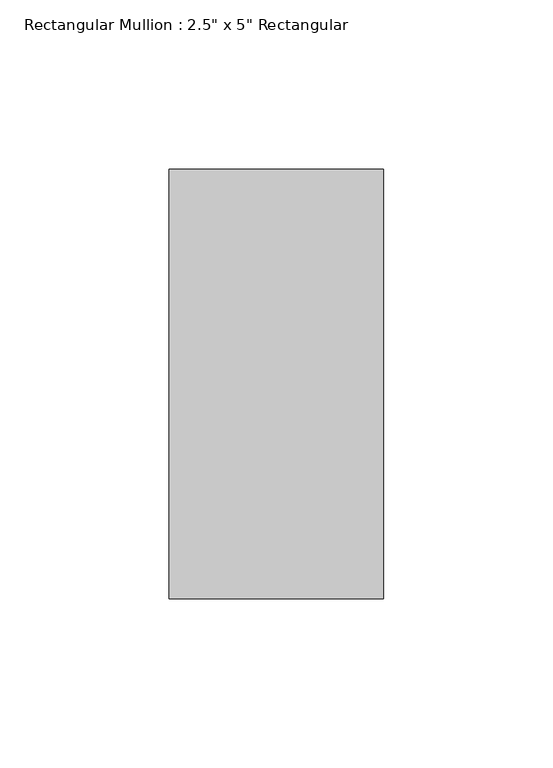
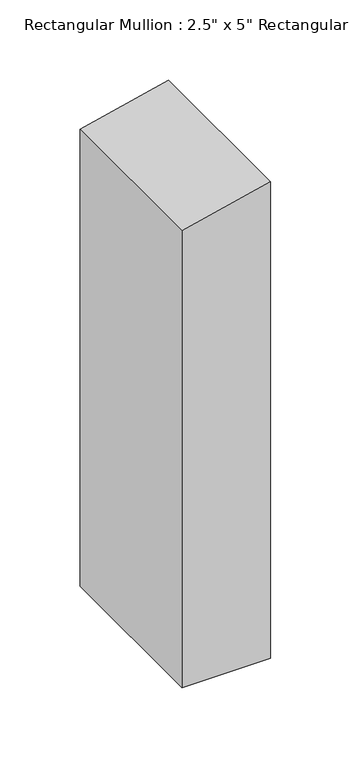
"""IFC4 building model written with IfcOpenShell, lengths in millimetres: member geometry."""

import ifcopenshell
import ifcopenshell.guid

model = None  # the IFC model being written
_history = None  # IfcOwnerHistory: only IFC2X3 demands one
_inside = {}  # id of a spatial element -> (the spatial element, [elements in it])
_under = {}  # id of a project, library or spatial element -> (it, [spatial elements below it])
_declared = {}  # id of a project -> (the project, [libraries it declares])
_typed = {}  # id of a type object -> (the type object, [elements of that type])
_made_of = {}  # id of a material, layer set ... -> (it, [elements and type objects made of it])


def new_model(schema):
    """Start an empty IFC model of exactly this schema.

    Asked for "IFC4X3", IfcOpenShell would pick the latest addendum, in which some entities
    have other attributes; the version numbers below select the first issue.
    IFC2X3 requires an IfcOwnerHistory on every rooted entity: one is made here for all.
    """
    global model, _history
    if schema == "IFC4X3":
        model = ifcopenshell.file(schema_version=(4, 3, 0, 0))
    else:
        model = ifcopenshell.file(schema=schema)
    _inside.clear()
    _under.clear()
    _declared.clear()
    _typed.clear()
    _made_of.clear()
    _history = None
    if model.schema == "IFC2X3":
        org = make("IfcOrganization", Name="unknown")
        user = make(
            "IfcPersonAndOrganization",
            ThePerson=make("IfcPerson", FamilyName="unknown"),
            TheOrganization=org,
        )
        app = make(
            "IfcApplication",
            ApplicationDeveloper=org,
            Version="unknown",
            ApplicationFullName="unknown",
            ApplicationIdentifier="unknown",
        )
        _history = make(
            "IfcOwnerHistory",
            OwningUser=user,
            OwningApplication=app,
            ChangeAction="ADDED",
            CreationDate=0,
        )
    return model


def make(cls, **values):
    """One entity of the class cls with the attributes given. An attribute that is None is left unset."""
    return model.create_entity(
        cls, **{name: value for name, value in values.items() if value is not None}
    )


def rooted(cls, **values):
    """An entity with a GlobalId (a new one), such as an element, a storey or a relation."""
    return make(cls, GlobalId=ifcopenshell.guid.new(), OwnerHistory=_history, **values)


def si_unit(unit_type, name, prefix=None):
    """IfcSIUnit, for example si_unit("LENGTHUNIT", "METRE", prefix="MILLI")."""
    return make("IfcSIUnit", UnitType=unit_type, Prefix=prefix, Name=name)


def assignment(units):
    """IfcUnitAssignment: the units of a project."""
    return None if units is None else make("IfcUnitAssignment", Units=units)


def point(xyz):
    """IfcCartesianPoint."""
    return None if xyz is None else make("IfcCartesianPoint", Coordinates=xyz)


def direction(xyz):
    """IfcDirection."""
    return None if xyz is None else make("IfcDirection", DirectionRatios=xyz)


def frame(location, z_axis=None, x_axis=None):
    """IfcAxis2Placement3D, a coordinate frame: its origin and axes. An axis left out is left unset."""
    return make(
        "IfcAxis2Placement3D",
        Location=point(location),
        Axis=direction(z_axis),
        RefDirection=direction(x_axis),
    )


def origin():
    """The frame at (0, 0, 0) with its axes left unset."""
    return frame((0.0, 0.0, 0.0))


def place(relative_to, where):
    """IfcLocalPlacement: puts the frame where relative to a parent placement (None: the world)."""
    return make(
        "IfcLocalPlacement", PlacementRelTo=relative_to, RelativePlacement=where
    )


def context(
    kind, dimensions, precision=None, world=None, true_north=None, identifier=None
):
    """IfcGeometricRepresentationContext, for example the 3D "Model" context."""
    return make(
        "IfcGeometricRepresentationContext",
        ContextIdentifier=identifier,
        ContextType=kind,
        CoordinateSpaceDimension=dimensions,
        Precision=precision,
        WorldCoordinateSystem=world,
        TrueNorth=true_north,
    )


def project(units=None, contexts=None):
    """IfcProject with its units and contexts."""
    return rooted(
        "IfcProject",
        Name="project",
        RepresentationContexts=contexts,
        UnitsInContext=assignment(units),
    )


def spatial(cls, under=None, at=None, **own):
    """A site, building, storey or space (cls), placed at a placement, below another one or the project."""
    s = rooted(cls, ObjectPlacement=at, **own)
    if under is not None:
        _under.setdefault(under.id(), (under, []))[1].append(s)
    return s


def polyline(points):
    """IfcPolyline through the points."""
    return make("IfcPolyline", Points=[point(p) for p in points])


def outline(outer, holes=None, kind="AREA"):
    """IfcArbitraryClosedProfileDef: a profile drawn as a closed curve; with holes, ...WithVoids."""
    if holes is None:
        return make("IfcArbitraryClosedProfileDef", ProfileType=kind, OuterCurve=outer)
    return make(
        "IfcArbitraryProfileDefWithVoids",
        ProfileType=kind,
        OuterCurve=outer,
        InnerCurves=holes,
    )


def extrude(swept, where, along, depth):
    """IfcExtrudedAreaSolid: the profile swept, set in the frame where, extruded along a direction by depth."""
    return make(
        "IfcExtrudedAreaSolid",
        SweptArea=swept,
        Position=where,
        ExtrudedDirection=direction(along),
        Depth=depth,
    )


def shape(context_of_items, identifier, shape_type, items):
    """IfcShapeRepresentation: the items that make up one representation, for example the "Body"."""
    return make(
        "IfcShapeRepresentation",
        ContextOfItems=context_of_items,
        RepresentationIdentifier=identifier,
        RepresentationType=shape_type,
        Items=items,
    )


def source(mapping_origin, context_of_items, identifier, shape_type, items):
    """IfcRepresentationMap: a shape defined once, which mapped items show again and again."""
    return make(
        "IfcRepresentationMap",
        MappingOrigin=mapping_origin,
        MappedRepresentation=shape(context_of_items, identifier, shape_type, items),
    )


def transform(
    local_origin,
    x_axis=None,
    y_axis=None,
    z_axis=None,
    scale=None,
    scale2=None,
    scale3=None,
    uniform=True,
):
    """IfcCartesianTransformationOperator3D, or its non-uniform kind. x_axis, y_axis, z_axis: its Axis1, 2, 3."""
    if uniform:
        return make(
            "IfcCartesianTransformationOperator3D",
            Axis1=direction(x_axis),
            Axis2=direction(y_axis),
            LocalOrigin=point(local_origin),
            Scale=scale,
            Axis3=direction(z_axis),
        )
    return make(
        "IfcCartesianTransformationOperator3DnonUniform",
        Axis1=direction(x_axis),
        Axis2=direction(y_axis),
        LocalOrigin=point(local_origin),
        Scale=scale,
        Axis3=direction(z_axis),
        Scale2=scale2,
        Scale3=scale3,
    )


def mapped(mapping_source, mapping_target):
    """IfcMappedItem: shows the shape of a source again, moved by a transform."""
    return make(
        "IfcMappedItem", MappingSource=mapping_source, MappingTarget=mapping_target
    )


def made_of(thing, what):
    """Note that an element or type object is made of a material, layer set ...; save() writes the relation."""
    if what is not None:
        _made_of.setdefault(what.id(), (what, []))[1].append(thing)
    return thing


def element(
    cls,
    number,
    at=None,
    inside=None,
    cuts=None,
    type_object=None,
    material=None,
    context=None,
    identifier="Body",
    shape_type=None,
    held_by="IfcProductDefinitionShape",
    body=None,
    shapes=None,
    **own,
):
    """One element of the class cls, such as IfcWall. Its Tag is "e" and its number.

    at: its placement. inside: the storey or other place that contains it. cuts: it is an
    opening in that element (IfcRelVoidsElement). A single representation is given by context,
    identifier, shape_type and body (its items); several are given by shapes. held_by: the class
    of the entity that holds the representations. save() writes the other relations.
    """
    e = rooted(cls, Tag="e%d" % number, ObjectPlacement=at, **own)
    if body is not None:
        shapes = [shape(context, identifier, shape_type, body)]
    if shapes is not None:
        e.Representation = make(held_by, Representations=shapes)
    if inside is not None:
        _inside.setdefault(inside.id(), (inside, []))[1].append(e)
    if cuts is not None:
        rooted(
            "IfcRelVoidsElement", RelatingBuildingElement=cuts, RelatedOpeningElement=e
        )
    if type_object is not None:
        _typed.setdefault(type_object.id(), (type_object, []))[1].append(e)
    return made_of(e, material)


def aggregate(whole, parts):
    """IfcRelAggregates: a whole, such as a stair, and the parts it consists of."""
    return rooted("IfcRelAggregates", RelatingObject=whole, RelatedObjects=parts)


def save(model, path):
    """Write the relations noted so far, then the file.

    IfcRelAggregates (storeys below a building ...), IfcRelContainedInSpatialStructure (elements
    in a storey), IfcRelDefinesByType, IfcRelAssociatesMaterial and IfcRelDeclares: one each for
    every whole, place, type object, material and project.
    """
    for whole, parts in _under.values():
        aggregate(whole, parts)
    for where, things in _inside.values():
        rooted(
            "IfcRelContainedInSpatialStructure",
            RelatedElements=things,
            RelatingStructure=where,
        )
    for kind, things in _typed.values():
        rooted("IfcRelDefinesByType", RelatedObjects=things, RelatingType=kind)
    for what, things in _made_of.values():
        rooted("IfcRelAssociatesMaterial", RelatedObjects=things, RelatingMaterial=what)
    for by, libraries in _declared.values():
        rooted("IfcRelDeclares", RelatingContext=by, RelatedDefinitions=libraries)
    model.write(path)


def member_281dec21(model_context):
    return source(origin(), model_context, "Body", "SweptSolid", [
        extrude(outline(polyline([(0.0, 0.0), (-14.9903166, -63.5), (-362.0288827, -63.5), (-362.0288827, 0.0), (0.0, 0.0)])), frame((0.0, -63.5, 0.0), z_axis=(0.0, 1.0, 0.0), x_axis=(0.0, 0.0, 1.0)), (0.0, 0.0, 1.0), 127.0),
    ])


if __name__ == "__main__":
    model = new_model("IFC4")
    model_context = context("Model", 3, world=origin())
    ifc_project = project(units=[si_unit("LENGTHUNIT", "METRE", prefix="MILLI")], contexts=[model_context])
    site = spatial("IfcSite", under=ifc_project)
    building = spatial("IfcBuilding", under=site)
    placement = place(None, origin())
    member_shape = member_281dec21(model_context)
    element("IfcMember", 1, ObjectType="Rectangular Mullion : 2.5\" x 5\" Rectangular", at=placement, inside=building, context=model_context, shape_type="MappedRepresentation", body=[
        mapped(member_shape, transform((0.0, 0.0, 0.0), x_axis=(1.0, 0.0, 0.0), y_axis=(0.0, 1.0, 0.0), z_axis=(0.0, 0.0, 1.0))),
    ])
    save(model, "model.ifc")
